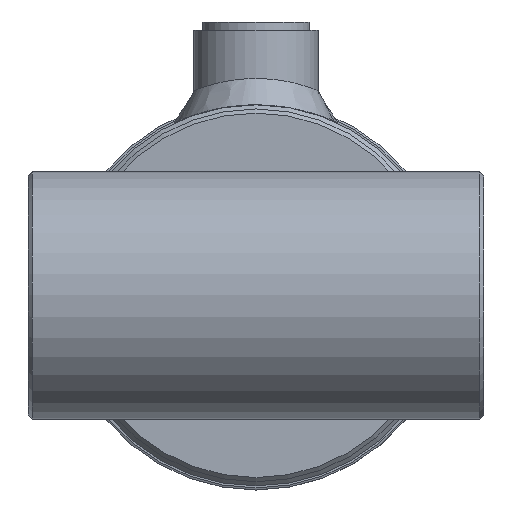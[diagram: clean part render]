
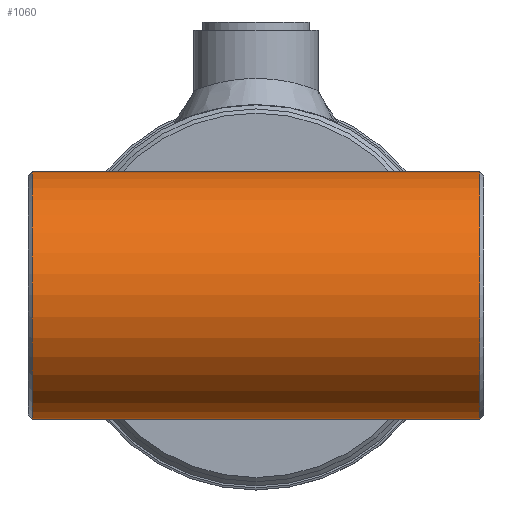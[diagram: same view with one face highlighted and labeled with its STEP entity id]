
A CAD part, left-side view. The second image highlights one B-rep face of the part: STEP entity #1060.
In plain terms, the highlighted cylindrical face has radius 30 mm (diameter 60 mm), a full revolution.
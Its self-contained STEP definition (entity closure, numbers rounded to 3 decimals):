
#1060 = ADVANCED_FACE( '', ( #2018, #2019 ), #2020, .T. );
#2018 = FACE_OUTER_BOUND( '', #7942, .T. );
#2019 = FACE_OUTER_BOUND( '', #7943, .T. );
#2020 = CYLINDRICAL_SURFACE( '', #7944, 30. );
#7942 = EDGE_LOOP( '', ( #12668 ) );
#7943 = EDGE_LOOP( '', ( #12669 ) );
#7944 = AXIS2_PLACEMENT_3D( '', #12670, #12671, #12672 );
#12668 = ORIENTED_EDGE( '', *, *, #13796, .T. );
#12669 = ORIENTED_EDGE( '', *, *, #13797, .T. );
#12670 = CARTESIAN_POINT( '', ( 0., -55., 0. ) );
#12671 = DIRECTION( '', ( 0., -1., 0. ) );
#12672 = DIRECTION( '', ( 0., 0., 1. ) );
#13796 = EDGE_CURVE( '', #14742, #14742, #14743, .F. );
#13797 = EDGE_CURVE( '', #14744, #14744, #14745, .T. );
#14742 = VERTEX_POINT( '', #18029 );
#14743 = CIRCLE( '', #18030, 30. );
#14744 = VERTEX_POINT( '', #18031 );
#14745 = CIRCLE( '', #18032, 30. );
#18029 = CARTESIAN_POINT( '', ( 0., 54., 30. ) );
#18030 = AXIS2_PLACEMENT_3D( '', #18977, #18978, #18979 );
#18031 = CARTESIAN_POINT( '', ( 0., -54., 30. ) );
#18032 = AXIS2_PLACEMENT_3D( '', #18980, #18981, #18982 );
#18977 = CARTESIAN_POINT( '', ( 0., 54., 0. ) );
#18978 = DIRECTION( '', ( 0., 1., 0. ) );
#18979 = DIRECTION( '', ( 0., 0., 1. ) );
#18980 = CARTESIAN_POINT( '', ( 0., -54., 0. ) );
#18981 = DIRECTION( '', ( 0., 1., 0. ) );
#18982 = DIRECTION( '', ( 0., 0., 1. ) );
